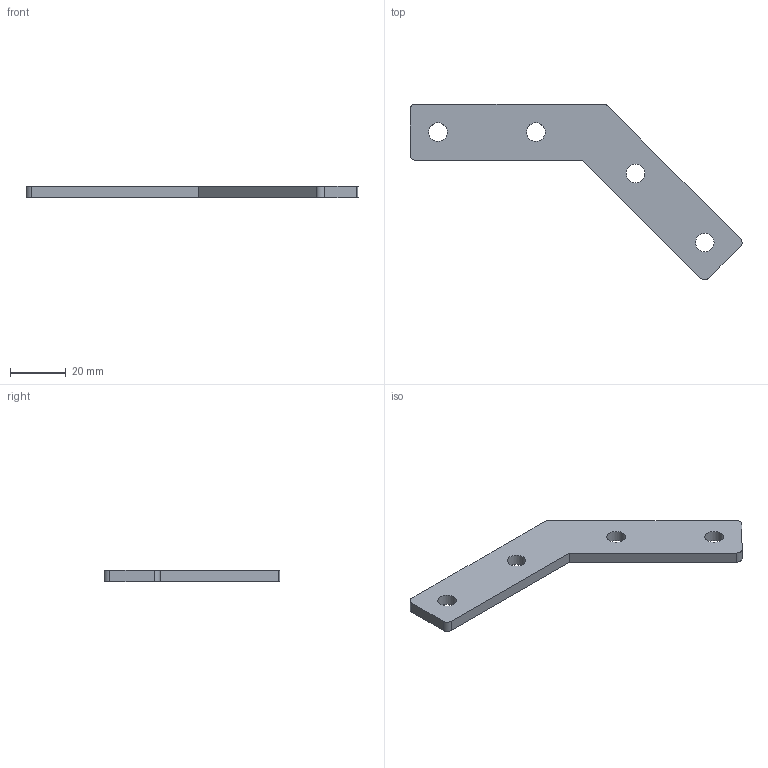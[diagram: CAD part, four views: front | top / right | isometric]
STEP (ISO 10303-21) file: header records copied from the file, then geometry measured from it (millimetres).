
FILE_DESCRIPTION((''),'2;1');
FILE_NAME('C:\Vault Klient\Projekt\Step\100-7025.stp','2009-12-10T13:14:15',('Mathias'),(''),'Autodesk Inventor 2010','Autodesk Inventor 2010','');
FILE_SCHEMA(('CONFIG_CONTROL_DESIGN'));
Length unit declared in the file: millimetre
Products named in the file (1): 100-7025
Bounding box: 118.66 x 62.8 x 4 mm (x, y, z)
Volume: 9968.1 mm3; surface area: 6517.7 mm2
Topology: 1 solids, 1 shells, 17 faces, 49 edges, 34 vertices
Faces by surface type: plane 8, cylinder 5, bspline 4
Entity records: 611 total; most frequent: CARTESIAN_POINT 157, DIRECTION 87, ORIENTED_EDGE 82, EDGE_CURVE 41, AXIS2_PLACEMENT_3D 32, VERTEX_POINT 30, EDGE_LOOP 29, VECTOR 23
